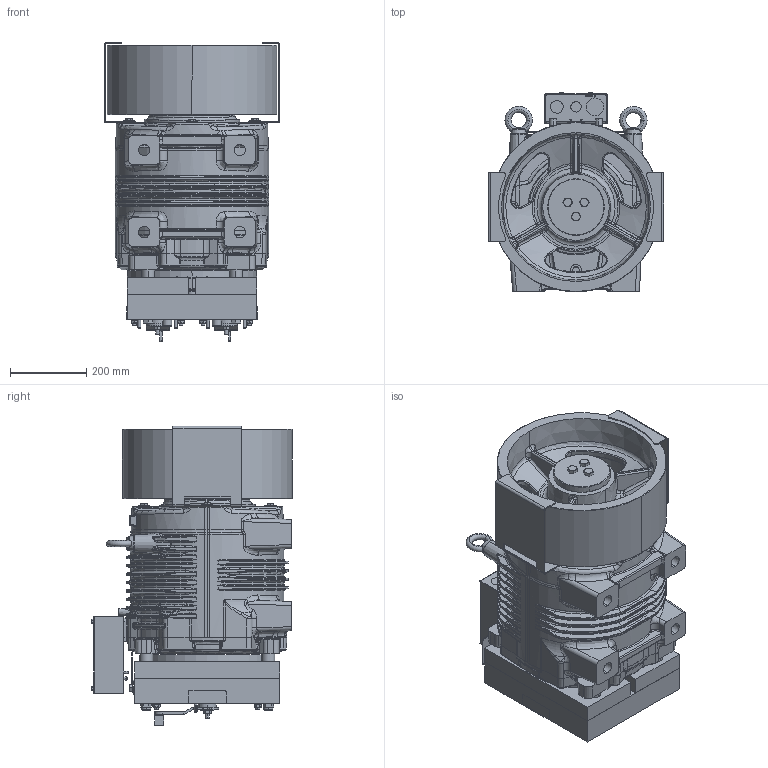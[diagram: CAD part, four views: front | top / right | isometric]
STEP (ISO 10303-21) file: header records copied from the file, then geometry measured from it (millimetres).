
FILE_DESCRIPTION((''),'2;1');
FILE_NAME('00363634_ASM','2020-06-16T',('furlanis'),('Sicor spa'),'CREO PARAMETRIC BY PTC INC, 2017170','CREO PARAMETRIC BY PTC INC, 2017170','');
FILE_SCHEMA(('CONFIG_CONTROL_DESIGN'));
Products named in the file (4): SG62_; _440_182; _440; 00363634_ASM
Assembly tree (4 placements, depth 2):
  00363634_ASM
    SG62_
    _440_182
    _440  x2
Bounding box: 459 x 523.9 x 783.64 mm (x, y, z)
Volume: 11732831.9 mm3; surface area: 4846451.6 mm2
Topology: 3 solids, 181 shells, 4110 faces, 11578 edges, 7375 vertices
Faces by surface type: bspline 1201, plane 959, cylinder 888, torus 556, cone 456, sphere 50
Entity records: 231355 total; most frequent: CARTESIAN_POINT 142029, ORIENTED_EDGE 19940, DIRECTION 14910, EDGE_CURVE 11402, VERTEX_POINT 7299, AXIS2_PLACEMENT_3D 5950, B_SPLINE_CURVE_WITH_KNOTS 5313, EDGE_LOOP 4077
